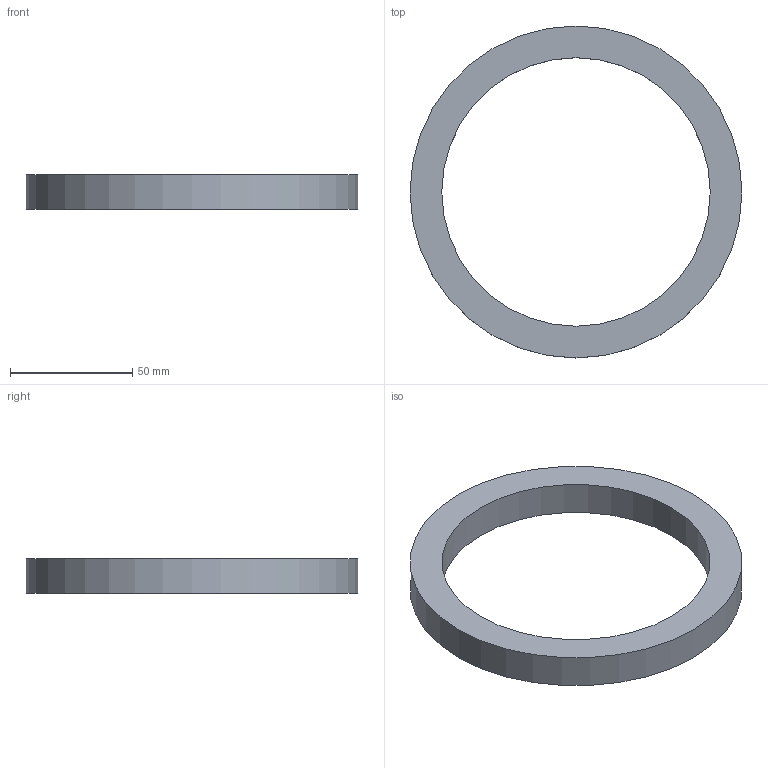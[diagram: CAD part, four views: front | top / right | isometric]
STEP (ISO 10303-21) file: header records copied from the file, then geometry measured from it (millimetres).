
FILE_DESCRIPTION(('Open CASCADE Model'),'2;1');
FILE_NAME('Open CASCADE Shape Model','2026-10-17T16:45:02',('Author'),( 'Open CASCADE'),'Open CASCADE STEP processor 8.0','build123d', 'Unknown');
FILE_SCHEMA(('AUTOMOTIVE_DESIGN { 1 0 10303 214 1 1 1 1 }'));
Length unit declared in the file: millimetre
Products named in the file (1): COMPOUND
Bounding box: 136 x 136 x 14 mm (x, y, z)
Volume: 70327.7 mm3; surface area: 20866.5 mm2
Topology: 1 solids, 1 shells, 4 faces, 6 edges, 4 vertices
Faces by surface type: cylinder 2, plane 2
Full cylindrical faces by diameter (mm): 110 x1, 136 x1
Entity records: 186 total; most frequent: DIRECTION 32, CARTESIAN_POINT 27, ORIENTED_EDGE 12, PCURVE 12, DEFINITIONAL_REPRESENTATION 12, LINE 10, VECTOR 10, AXIS2_PLACEMENT_3D 9
